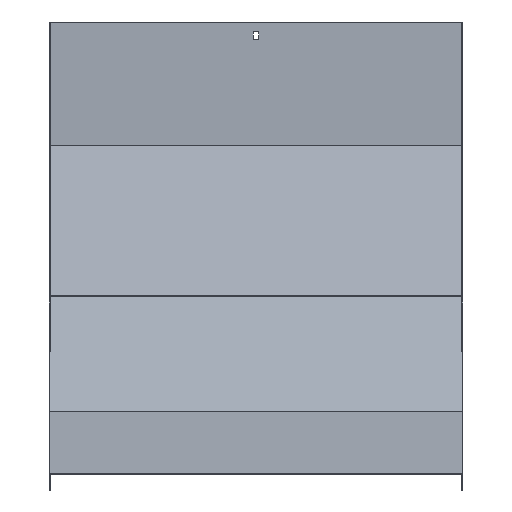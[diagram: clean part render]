
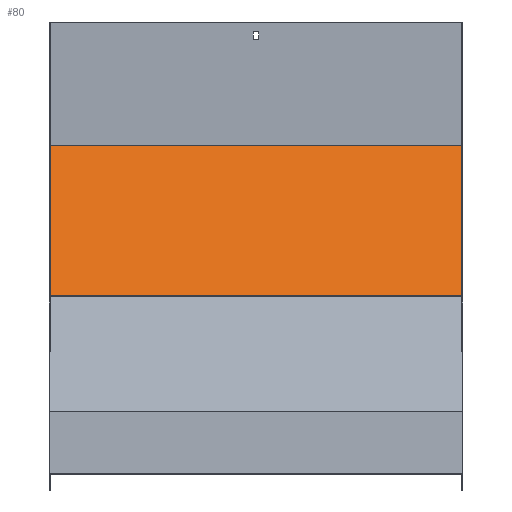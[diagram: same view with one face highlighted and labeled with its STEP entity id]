
A CAD part, top view. The second image highlights one B-rep face of the part: STEP entity #80.
In plain terms, the highlighted planar face has unit normal (0, 0.383, 0.924).
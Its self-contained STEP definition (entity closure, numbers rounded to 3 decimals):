
#32 = VERTEX_POINT ( 'NONE', #711 ) ;
#40 = ORIENTED_EDGE ( 'NONE', *, *, #639, .T. ) ;
#80 = ADVANCED_FACE ( 'NONE', ( #524 ), #96, .T. ) ;
#85 = CARTESIAN_POINT ( 'NONE',  ( 251.5, 400.116, -549.916 ) ) ;
#96 = PLANE ( 'NONE',  #527 ) ;
#148 = VECTOR ( 'NONE', #431, 1000. ) ;
#149 = CARTESIAN_POINT ( 'NONE',  ( 251.5, 400.116, -549.916 ) ) ;
#270 = VERTEX_POINT ( 'NONE', #149 ) ;
#285 = VECTOR ( 'NONE', #589, 1000. ) ;
#300 = VERTEX_POINT ( 'NONE', #663 ) ;
#301 = CARTESIAN_POINT ( 'NONE',  ( 251.5, 216.541, -473.877 ) ) ;
#336 = LINE ( 'NONE', #1099, #877 ) ;
#375 = DIRECTION ( 'NONE',  ( 0., 0.383, 0.924 ) ) ;
#431 = DIRECTION ( 'NONE',  ( -1., 0., 0. ) ) ;
#437 = CARTESIAN_POINT ( 'NONE',  ( 251.5, 216.541, -473.877 ) ) ;
#457 = EDGE_LOOP ( 'NONE', ( #714, #1039, #689, #40 ) ) ;
#516 = EDGE_CURVE ( 'NONE', #300, #270, #753, .T. ) ;
#524 = FACE_OUTER_BOUND ( 'NONE', #457, .T. ) ;
#527 = AXIS2_PLACEMENT_3D ( 'NONE', #437, #375, #731 ) ;
#539 = DIRECTION ( 'NONE',  ( -1., 0., 0. ) ) ;
#589 = DIRECTION ( 'NONE',  ( 0., 0.924, -0.383 ) ) ;
#618 = EDGE_CURVE ( 'NONE', #300, #32, #702, .T. ) ;
#639 = EDGE_CURVE ( 'NONE', #270, #1070, #783, .T. ) ;
#663 = CARTESIAN_POINT ( 'NONE',  ( 251.5, 216.541, -473.877 ) ) ;
#674 = CARTESIAN_POINT ( 'NONE',  ( -251.5, 400.116, -549.916 ) ) ;
#689 = ORIENTED_EDGE ( 'NONE', *, *, #516, .T. ) ;
#697 = DIRECTION ( 'NONE',  ( 0., 0.924, -0.383 ) ) ;
#702 = LINE ( 'NONE', #960, #148 ) ;
#711 = CARTESIAN_POINT ( 'NONE',  ( -251.5, 216.541, -473.877 ) ) ;
#714 = ORIENTED_EDGE ( 'NONE', *, *, #1094, .F. ) ;
#731 = DIRECTION ( 'NONE',  ( 0., -0.924, 0.383 ) ) ;
#753 = LINE ( 'NONE', #301, #285 ) ;
#783 = LINE ( 'NONE', #85, #837 ) ;
#837 = VECTOR ( 'NONE', #539, 1000. ) ;
#877 = VECTOR ( 'NONE', #697, 1000. ) ;
#960 = CARTESIAN_POINT ( 'NONE',  ( 251.5, 216.541, -473.877 ) ) ;
#1039 = ORIENTED_EDGE ( 'NONE', *, *, #618, .F. ) ;
#1070 = VERTEX_POINT ( 'NONE', #674 ) ;
#1094 = EDGE_CURVE ( 'NONE', #32, #1070, #336, .T. ) ;
#1099 = CARTESIAN_POINT ( 'NONE',  ( -251.5, 216.541, -473.877 ) ) ;
